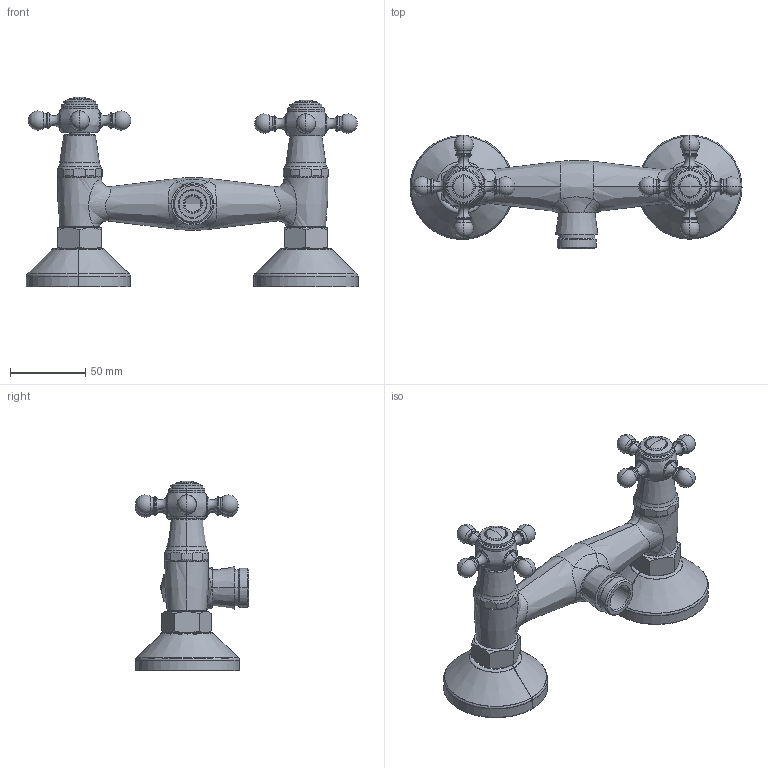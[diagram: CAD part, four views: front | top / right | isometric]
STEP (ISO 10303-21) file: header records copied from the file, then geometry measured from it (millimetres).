
FILE_DESCRIPTION((''),'2;1');
FILE_NAME('37021--00_GEN_ASM','2023-02-02T08:50:54',('sosm1'),(''),'CREO PARAMETRIC BY PTC INC, 2022244','CREO PARAMETRIC BY PTC INC, 2022244','');
FILE_SCHEMA(('CONFIG_CONTROL_DESIGN'));
Length unit declared in the file: millimetre
Products named in the file (17): 46037--; 42695--; 19350--_NEW; 19117--; 19350--_SUB01_ASM; 42112--; 42112_SUB01_ASM; 4115900; 4116000; 42793--; 4211500; 42793_SUB01_ASM; 37021_ASM; 42124--; 4212300_ASM; 37021--00_GEN_TLB_ASM; 37021--00_GEN_ASM
Assembly tree (20 placements, depth 4):
  37021--00_GEN_ASM
    37021_ASM
      46037--
      42695--  x2
      19350--_SUB01_ASM  x2
        19350--_NEW
        19117--
      42112_SUB01_ASM  x2
        42112--
      4115900
      4116000
      42793_SUB01_ASM
        42793--
        4211500
    37021--00_GEN_TLB_ASM
      4212300_ASM
        42124--  x2
Bounding box: 220 x 75.5 x 125.8 mm (x, y, z)
Volume: 111744.8 mm3; surface area: 95319.4 mm2
Topology: 15 solids, 15 shells, 926 faces, 2213 edges, 1326 vertices
Faces by surface type: cylinder 230, plane 203, torus 188, cone 154, bspline 131, sphere 20
Entity records: 32931 total; most frequent: CARTESIAN_POINT 19157, ORIENTED_EDGE 2896, DIRECTION 2765, EDGE_CURVE 1448, AXIS2_PLACEMENT_3D 1215, VERTEX_POINT 874, EDGE_LOOP 660, CIRCLE 656
